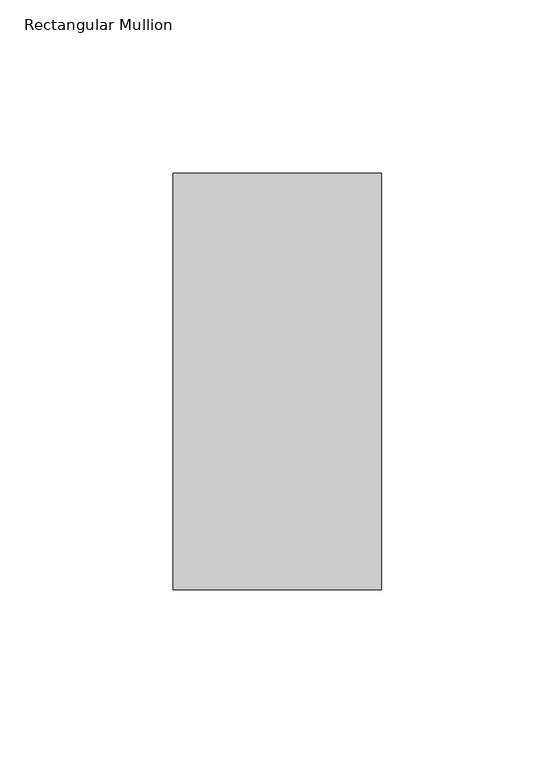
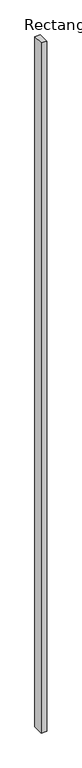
"""IFC4 building model written with IfcOpenShell, lengths in millimetres: member geometry, Rectangular Mullion : Terça."""

from ifc_helpers import new_model, si_unit, frame, origin, place, context, project, spatial, polyline, outline, extrude, source, transform, mapped, element, save


def rectangular_mullion_4fee4107(model_context):
    return source(origin(), model_context, "Body", "SweptSolid", [
        extrude(outline(polyline([(-60.0, -120.0), (-60.0, 0.0), (0.0, 0.0), (0.0, -120.0), (-60.0, -120.0)])), frame((0.0, 0.0, -8000.0), z_axis=(0.0, 0.0, 1.0), x_axis=(1.0, 0.0, 0.0)), (0.0, 0.0, 1.0), 8000.0),
    ])


if __name__ == "__main__":
    model = new_model("IFC4")
    model_context = context("Model", 3, world=origin())
    ifc_project = project(units=[si_unit("LENGTHUNIT", "METRE", prefix="MILLI")], contexts=[model_context])
    site = spatial("IfcSite", under=ifc_project)
    building = spatial("IfcBuilding", under=site)
    placement = place(None, origin())
    rectangular_mullion_shape = rectangular_mullion_4fee4107(model_context)
    element("IfcMember", 1, ObjectType="Rectangular Mullion : Terça", at=placement, inside=building, context=model_context, shape_type="MappedRepresentation", body=[
        mapped(rectangular_mullion_shape, transform((0.0, 0.0, 0.0), x_axis=(1.0, 0.0, 0.0), y_axis=(0.0, 1.0, 0.0), z_axis=(0.0, 0.0, 1.0))),
    ])
    save(model, "model.ifc")
